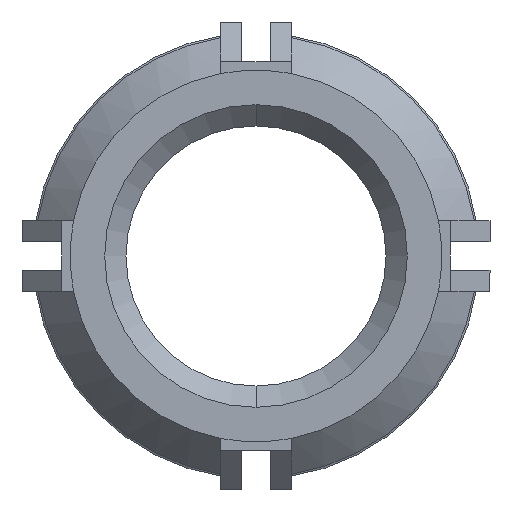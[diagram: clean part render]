
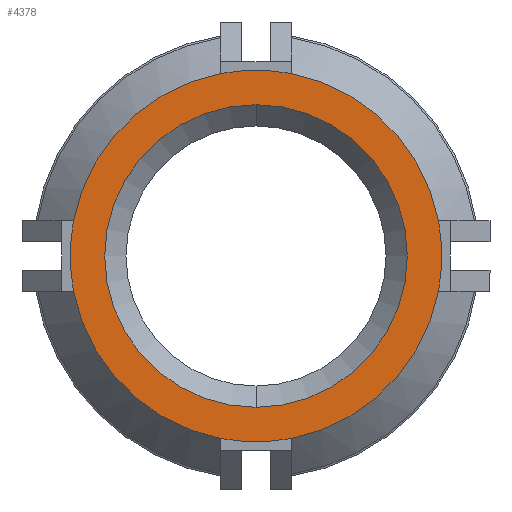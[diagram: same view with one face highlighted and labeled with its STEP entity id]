
A CAD part, front view. The second image highlights one B-rep face of the part: STEP entity #4378.
In plain terms, the highlighted planar face has unit normal (0, -1, 0).
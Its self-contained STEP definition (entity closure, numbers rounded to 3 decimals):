
#142 = CIRCLE ( 'NONE', #3355, 7.938 ) ;
#239 = DIRECTION ( 'NONE',  ( 1., 0., 0. ) ) ;
#274 = CARTESIAN_POINT ( 'NONE',  ( 7.795, -15.748, -1.5 ) ) ;
#363 = ORIENTED_EDGE ( 'NONE', *, *, #4372, .T. ) ;
#391 = AXIS2_PLACEMENT_3D ( 'NONE', #1697, #911, #4789 ) ;
#465 = AXIS2_PLACEMENT_3D ( 'NONE', #1287, #2094, #2444 ) ;
#494 = CARTESIAN_POINT ( 'NONE',  ( -7.795, -15.748, -1.5 ) ) ;
#636 = DIRECTION ( 'NONE',  ( 0., -1., 0. ) ) ;
#692 = FACE_OUTER_BOUND ( 'NONE', #4026, .T. ) ;
#764 = DIRECTION ( 'NONE',  ( 0., -1., 0. ) ) ;
#808 = CARTESIAN_POINT ( 'NONE',  ( -7.795, -15.748, 1.5 ) ) ;
#895 = CARTESIAN_POINT ( 'NONE',  ( 0., -15.748, 6.463 ) ) ;
#903 = DIRECTION ( 'NONE',  ( 0., 0., -1. ) ) ;
#911 = DIRECTION ( 'NONE',  ( 0., 1., 0. ) ) ;
#913 = VERTEX_POINT ( 'NONE', #274 ) ;
#935 = CIRCLE ( 'NONE', #465, 7.938 ) ;
#979 = CARTESIAN_POINT ( 'NONE',  ( 0., -15.748, -6.463 ) ) ;
#1050 = CIRCLE ( 'NONE', #2015, 7.938 ) ;
#1062 = VERTEX_POINT ( 'NONE', #895 ) ;
#1075 = DIRECTION ( 'NONE',  ( 0., -1., 0. ) ) ;
#1139 = AXIS2_PLACEMENT_3D ( 'NONE', #1497, #764, #3479 ) ;
#1140 = VERTEX_POINT ( 'NONE', #3858 ) ;
#1189 = DIRECTION ( 'NONE',  ( 0., 1., 0. ) ) ;
#1287 = CARTESIAN_POINT ( 'NONE',  ( 0., -15.748, 0. ) ) ;
#1372 = CARTESIAN_POINT ( 'NONE',  ( 0., -15.748, 0. ) ) ;
#1440 = CARTESIAN_POINT ( 'NONE',  ( 0., -15.748, 0. ) ) ;
#1497 = CARTESIAN_POINT ( 'NONE',  ( 0., -15.748, 0. ) ) ;
#1511 = DIRECTION ( 'NONE',  ( 0., 0., 1. ) ) ;
#1520 = ORIENTED_EDGE ( 'NONE', *, *, #4133, .T. ) ;
#1523 = DIRECTION ( 'NONE',  ( 0., 0., 1. ) ) ;
#1569 = CARTESIAN_POINT ( 'NONE',  ( 0., -15.748, 0. ) ) ;
#1666 = AXIS2_PLACEMENT_3D ( 'NONE', #1569, #4254, #4240 ) ;
#1667 = AXIS2_PLACEMENT_3D ( 'NONE', #2410, #3994, #2702 ) ;
#1697 = CARTESIAN_POINT ( 'NONE',  ( 0., -15.748, 0. ) ) ;
#1773 = CIRCLE ( 'NONE', #2080, 7.938 ) ;
#1946 = ORIENTED_EDGE ( 'NONE', *, *, #3483, .T. ) ;
#2015 = AXIS2_PLACEMENT_3D ( 'NONE', #4538, #2992, #2959 ) ;
#2025 = CARTESIAN_POINT ( 'NONE',  ( 7.795, -15.748, 1.5 ) ) ;
#2080 = AXIS2_PLACEMENT_3D ( 'NONE', #1440, #1075, #4163 ) ;
#2094 = DIRECTION ( 'NONE',  ( 0., -1., 0. ) ) ;
#2100 = VERTEX_POINT ( 'NONE', #2844 ) ;
#2107 = CARTESIAN_POINT ( 'NONE',  ( 0., -15.748, 0. ) ) ;
#2262 = CIRCLE ( 'NONE', #1139, 7.938 ) ;
#2410 = CARTESIAN_POINT ( 'NONE',  ( 0., -15.748, 0. ) ) ;
#2437 = ORIENTED_EDGE ( 'NONE', *, *, #4308, .T. ) ;
#2444 = DIRECTION ( 'NONE',  ( 0., 0., 1. ) ) ;
#2533 = AXIS2_PLACEMENT_3D ( 'NONE', #3154, #1189, #1523 ) ;
#2596 = EDGE_CURVE ( 'NONE', #4751, #1062, #4363, .T. ) ;
#2604 = AXIS2_PLACEMENT_3D ( 'NONE', #1372, #636, #239 ) ;
#2614 = ORIENTED_EDGE ( 'NONE', *, *, #3384, .T. ) ;
#2626 = ORIENTED_EDGE ( 'NONE', *, *, #4889, .T. ) ;
#2678 = VERTEX_POINT ( 'NONE', #4514 ) ;
#2682 = PLANE ( 'NONE',  #1666 ) ;
#2698 = CIRCLE ( 'NONE', #4893, 7.938 ) ;
#2702 = DIRECTION ( 'NONE',  ( 0., 0., 1. ) ) ;
#2742 = ORIENTED_EDGE ( 'NONE', *, *, #2596, .T. ) ;
#2844 = CARTESIAN_POINT ( 'NONE',  ( -1.5, -15.748, 7.795 ) ) ;
#2959 = DIRECTION ( 'NONE',  ( 0., 0., 1. ) ) ;
#2992 = DIRECTION ( 'NONE',  ( 0., -1., 0. ) ) ;
#3011 = CIRCLE ( 'NONE', #1667, 7.938 ) ;
#3083 = CARTESIAN_POINT ( 'NONE',  ( 0., -15.748, 0. ) ) ;
#3144 = CIRCLE ( 'NONE', #2533, 6.463 ) ;
#3154 = CARTESIAN_POINT ( 'NONE',  ( 0., -15.748, 0. ) ) ;
#3199 = FACE_BOUND ( 'NONE', #4064, .T. ) ;
#3309 = EDGE_CURVE ( 'NONE', #3590, #4823, #935, .T. ) ;
#3355 = AXIS2_PLACEMENT_3D ( 'NONE', #2107, #4081, #903 ) ;
#3370 = CIRCLE ( 'NONE', #2604, 7.938 ) ;
#3384 = EDGE_CURVE ( 'NONE', #913, #3765, #142, .T. ) ;
#3427 = EDGE_CURVE ( 'NONE', #2100, #3590, #1050, .T. ) ;
#3479 = DIRECTION ( 'NONE',  ( 0., 0., 1. ) ) ;
#3483 = EDGE_CURVE ( 'NONE', #1140, #2100, #3370, .T. ) ;
#3590 = VERTEX_POINT ( 'NONE', #808 ) ;
#3591 = VERTEX_POINT ( 'NONE', #3924 ) ;
#3597 = ORIENTED_EDGE ( 'NONE', *, *, #3427, .T. ) ;
#3765 = VERTEX_POINT ( 'NONE', #2025 ) ;
#3852 = DIRECTION ( 'NONE',  ( 0., -1., 0. ) ) ;
#3858 = CARTESIAN_POINT ( 'NONE',  ( 1.5, -15.748, 7.795 ) ) ;
#3924 = CARTESIAN_POINT ( 'NONE',  ( 1.5, -15.748, -7.795 ) ) ;
#3989 = ORIENTED_EDGE ( 'NONE', *, *, #5051, .T. ) ;
#3994 = DIRECTION ( 'NONE',  ( 0., -1., 0. ) ) ;
#4026 = EDGE_LOOP ( 'NONE', ( #4311, #363, #2626, #2437, #2614, #3989, #1946, #3597 ) ) ;
#4064 = EDGE_LOOP ( 'NONE', ( #2742, #1520 ) ) ;
#4081 = DIRECTION ( 'NONE',  ( 0., -1., 0. ) ) ;
#4133 = EDGE_CURVE ( 'NONE', #1062, #4751, #3144, .T. ) ;
#4163 = DIRECTION ( 'NONE',  ( -1., 0., 0. ) ) ;
#4240 = DIRECTION ( 'NONE',  ( 0., 0., 1. ) ) ;
#4254 = DIRECTION ( 'NONE',  ( 0., 1., 0. ) ) ;
#4308 = EDGE_CURVE ( 'NONE', #3591, #913, #3011, .T. ) ;
#4311 = ORIENTED_EDGE ( 'NONE', *, *, #3309, .T. ) ;
#4363 = CIRCLE ( 'NONE', #391, 6.463 ) ;
#4372 = EDGE_CURVE ( 'NONE', #4823, #2678, #2262, .T. ) ;
#4378 = ADVANCED_FACE ( 'NONE', ( #3199, #692 ), #2682, .F. ) ;
#4514 = CARTESIAN_POINT ( 'NONE',  ( -1.5, -15.748, -7.795 ) ) ;
#4538 = CARTESIAN_POINT ( 'NONE',  ( 0., -15.748, 0. ) ) ;
#4751 = VERTEX_POINT ( 'NONE', #979 ) ;
#4789 = DIRECTION ( 'NONE',  ( 0., 0., 1. ) ) ;
#4823 = VERTEX_POINT ( 'NONE', #494 ) ;
#4889 = EDGE_CURVE ( 'NONE', #2678, #3591, #1773, .T. ) ;
#4893 = AXIS2_PLACEMENT_3D ( 'NONE', #3083, #3852, #1511 ) ;
#5051 = EDGE_CURVE ( 'NONE', #3765, #1140, #2698, .T. ) ;
